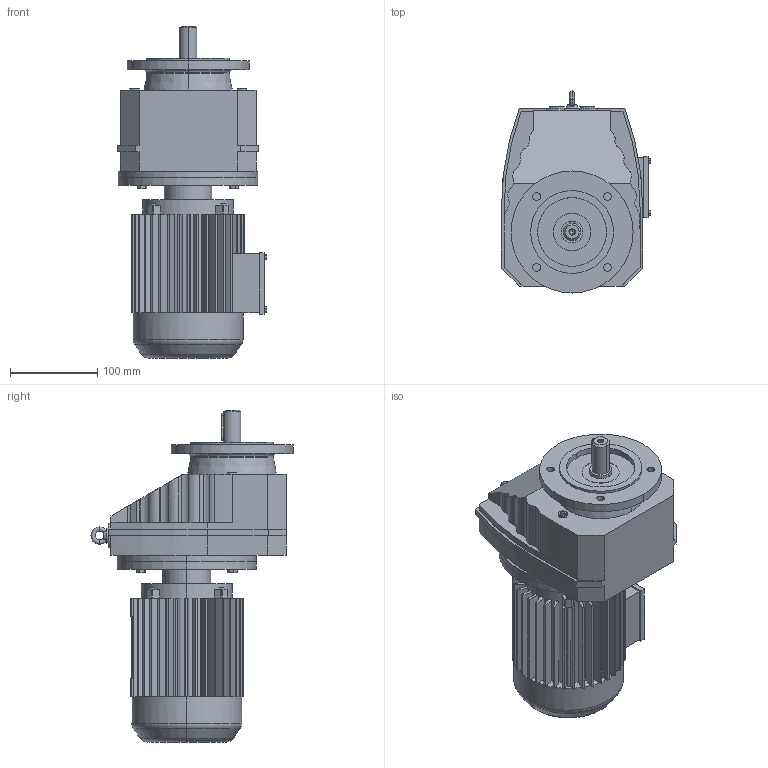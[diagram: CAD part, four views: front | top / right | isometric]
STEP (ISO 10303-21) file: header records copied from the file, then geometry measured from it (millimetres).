
FILE_DESCRIPTION(('Open CASCADE Model'),'2;1');
FILE_NAME('Open CASCADE Shape Model','2018-09-13T11:43:33',('Author'),( 'Open CASCADE'),'Open CASCADE STEP processor 6.3','Open CASCADE 6.3' ,'Unknown');
FILE_SCHEMA(('AUTOMOTIVE_DESIGN_CC2 { 1 2 10303 214 -1 1 5 4 }'));
Length unit declared in the file: millimetre
Products named in the file (3): 265_RXF57-Y63S-140; RXF57‵107_57_140.step; 萇儂_160_Y63S.step
Assembly tree (2 placements, depth 2):
  265_RXF57-Y63S-140
    RXF57‵107_57_140.step
    萇儂_160_Y63S.step
Bounding box: 171 x 232 x 381 mm (x, y, z)
Volume: 5165460.2 mm3; surface area: 390521.6 mm2
Topology: 2 solids, 2 shells, 630 faces, 1652 edges, 1061 vertices
Faces by surface type: plane 417, cylinder 187, torus 14, cone 12
Entity records: 43820 total; most frequent: CARTESIAN_POINT 12739, DIRECTION 5338, ORIENTED_EDGE 3300, PCURVE 3300, DEFINITIONAL_REPRESENTATION 3300, LINE 2741, VECTOR 2741, EDGE_CURVE 1650
